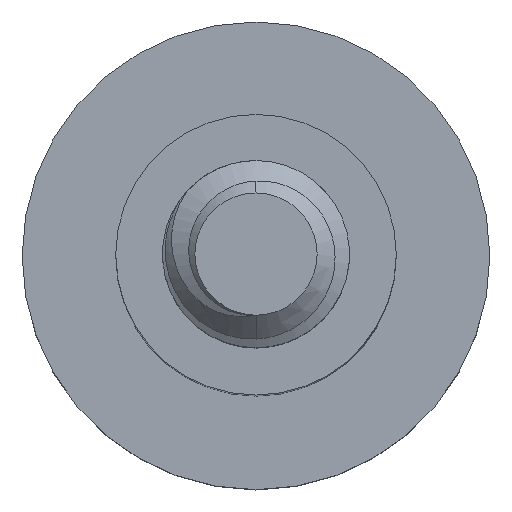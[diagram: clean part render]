
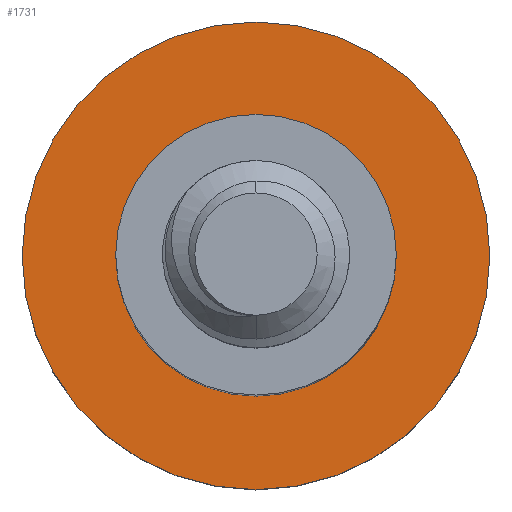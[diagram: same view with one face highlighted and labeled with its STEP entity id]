
A CAD part, top view. The second image highlights one B-rep face of the part: STEP entity #1731.
In plain terms, the highlighted planar face has unit normal (0, 0, 1).
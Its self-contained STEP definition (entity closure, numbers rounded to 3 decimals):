
#115 = AXIS2_PLACEMENT_3D ( 'NONE', #1003, #1785, #2351 ) ;
#151 = AXIS2_PLACEMENT_3D ( 'NONE', #1096, #496, #280 ) ;
#180 = ORIENTED_EDGE ( 'NONE', *, *, #307, .T. ) ;
#232 = CIRCLE ( 'NONE', #151, 1.5 ) ;
#240 = EDGE_CURVE ( 'NONE', #415, #1599, #2483, .T. ) ;
#277 = VERTEX_POINT ( 'NONE', #1775 ) ;
#280 = DIRECTION ( 'NONE',  ( -1., 0., 0. ) ) ;
#307 = EDGE_CURVE ( 'NONE', #1613, #277, #1751, .T. ) ;
#361 = ORIENTED_EDGE ( 'NONE', *, *, #1501, .F. ) ;
#371 = EDGE_LOOP ( 'NONE', ( #1483, #361 ) ) ;
#376 = DIRECTION ( 'NONE',  ( -1., 0., 0. ) ) ;
#415 = VERTEX_POINT ( 'NONE', #1071 ) ;
#429 = DIRECTION ( 'NONE',  ( 0., 0., -1. ) ) ;
#496 = DIRECTION ( 'NONE',  ( 0., 0., -1. ) ) ;
#628 = CARTESIAN_POINT ( 'NONE',  ( 0., 0., -7. ) ) ;
#968 = DIRECTION ( 'NONE',  ( -1., 0., 0. ) ) ;
#1003 = CARTESIAN_POINT ( 'NONE',  ( 0., 0., -7. ) ) ;
#1034 = AXIS2_PLACEMENT_3D ( 'NONE', #628, #2107, #376 ) ;
#1071 = CARTESIAN_POINT ( 'NONE',  ( 2.5, 0., -7. ) ) ;
#1096 = CARTESIAN_POINT ( 'NONE',  ( 0., 0., -7. ) ) ;
#1188 = PLANE ( 'NONE',  #115 ) ;
#1271 = ORIENTED_EDGE ( 'NONE', *, *, #2375, .T. ) ;
#1390 = AXIS2_PLACEMENT_3D ( 'NONE', #1750, #429, #2352 ) ;
#1483 = ORIENTED_EDGE ( 'NONE', *, *, #240, .F. ) ;
#1501 = EDGE_CURVE ( 'NONE', #1599, #415, #2206, .T. ) ;
#1520 = CARTESIAN_POINT ( 'NONE',  ( 0., 0., -7. ) ) ;
#1599 = VERTEX_POINT ( 'NONE', #1760 ) ;
#1613 = VERTEX_POINT ( 'NONE', #1771 ) ;
#1668 = AXIS2_PLACEMENT_3D ( 'NONE', #1520, #2064, #968 ) ;
#1731 = ADVANCED_FACE ( 'NONE', ( #2170, #1975 ), #1188, .F. ) ;
#1750 = CARTESIAN_POINT ( 'NONE',  ( 0., 0., -7. ) ) ;
#1751 = CIRCLE ( 'NONE', #1034, 1.5 ) ;
#1760 = CARTESIAN_POINT ( 'NONE',  ( -2.5, 0., -7. ) ) ;
#1771 = CARTESIAN_POINT ( 'NONE',  ( -1.5, 0., -7. ) ) ;
#1775 = CARTESIAN_POINT ( 'NONE',  ( 1.5, 0., -7. ) ) ;
#1785 = DIRECTION ( 'NONE',  ( 0., 0., -1. ) ) ;
#1975 = FACE_OUTER_BOUND ( 'NONE', #371, .T. ) ;
#2064 = DIRECTION ( 'NONE',  ( 0., 0., -1. ) ) ;
#2107 = DIRECTION ( 'NONE',  ( 0., 0., -1. ) ) ;
#2170 = FACE_BOUND ( 'NONE', #2329, .T. ) ;
#2206 = CIRCLE ( 'NONE', #1668, 2.5 ) ;
#2329 = EDGE_LOOP ( 'NONE', ( #180, #1271 ) ) ;
#2351 = DIRECTION ( 'NONE',  ( -1., 0., 0. ) ) ;
#2352 = DIRECTION ( 'NONE',  ( -1., 0., 0. ) ) ;
#2375 = EDGE_CURVE ( 'NONE', #277, #1613, #232, .T. ) ;
#2483 = CIRCLE ( 'NONE', #1390, 2.5 ) ;
